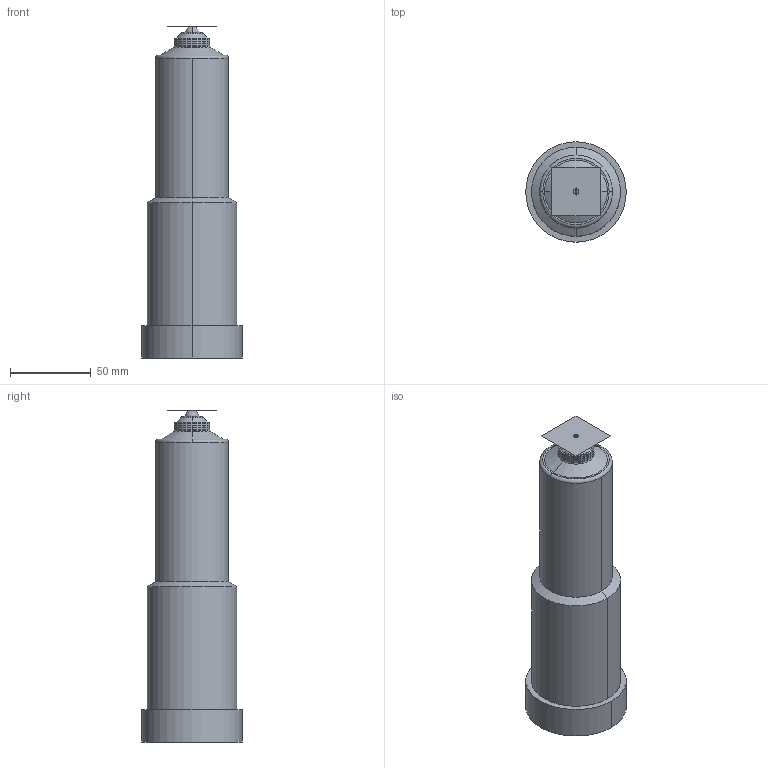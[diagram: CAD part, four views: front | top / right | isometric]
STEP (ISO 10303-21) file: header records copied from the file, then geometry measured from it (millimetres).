
FILE_DESCRIPTION (( 'STEP AP214' ), '1' );
FILE_NAME ('16EX22-03-205-TTW.STEP', '2022-03-09T13:42:31', ( '' ), ( '' ), 'SwSTEP 2.0', 'SolidWorks 2018', '' );
FILE_SCHEMA (( 'AUTOMOTIVE_DESIGN' ));
Length unit declared in the file: millimetre
Products named in the file (3): cutout_16EX22-03-205-TTW; nozzle_16EX22-03-205-TTW; 16EX22-03-205-TTW
Assembly tree (2 placements, depth 2):
  16EX22-03-205-TTW
    nozzle_16EX22-03-205-TTW
    cutout_16EX22-03-205-TTW
Bounding box: 62 x 62 x 205 mm (x, y, z)
Volume: 393392.6 mm3; surface area: 115191.1 mm2
Topology: 1 solids, 4 shells, 438 faces, 1164 edges, 708 vertices
Faces by surface type: cylinder 156, plane 155, torus 69, cone 52, sphere 4, bspline 2
Entity records: 14726 total; most frequent: CARTESIAN_POINT 3424, DIRECTION 2515, ORIENTED_EDGE 2316, EDGE_CURVE 1160, AXIS2_PLACEMENT_3D 1001, VERTEX_POINT 706, CIRCLE 559, VECTOR 513
